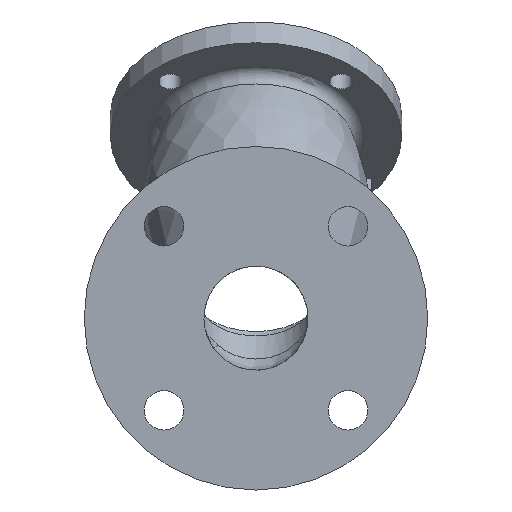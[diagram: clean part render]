
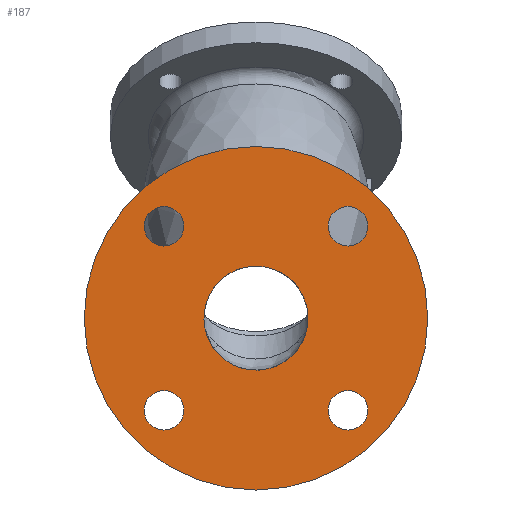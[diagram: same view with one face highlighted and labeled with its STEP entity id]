
A CAD part, front view. The second image highlights one B-rep face of the part: STEP entity #187.
In plain terms, the highlighted planar face has unit normal (0, -1, 0).
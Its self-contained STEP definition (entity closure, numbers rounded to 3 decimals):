
#187 = ADVANCED_FACE( '', ( #530, #531, #532, #533, #534, #535 ), #536, .F. );
#530 = FACE_BOUND( '', #1099, .T. );
#531 = FACE_BOUND( '', #1100, .T. );
#532 = FACE_BOUND( '', #1101, .T. );
#533 = FACE_OUTER_BOUND( '', #1102, .T. );
#534 = FACE_BOUND( '', #1103, .T. );
#535 = FACE_BOUND( '', #1104, .T. );
#536 = PLANE( '', #1105 );
#1099 = EDGE_LOOP( '', ( #9162 ) );
#1100 = EDGE_LOOP( '', ( #9163 ) );
#1101 = EDGE_LOOP( '', ( #9164, #9165, #9166, #9167, #9168, #9169, #9170 ) );
#1102 = EDGE_LOOP( '', ( #9171 ) );
#1103 = EDGE_LOOP( '', ( #9172 ) );
#1104 = EDGE_LOOP( '', ( #9173 ) );
#1105 = AXIS2_PLACEMENT_3D( '', #9174, #9175, #9176 );
#9162 = ORIENTED_EDGE( '', *, *, #10682, .T. );
#9163 = ORIENTED_EDGE( '', *, *, #10683, .T. );
#9164 = ORIENTED_EDGE( '', *, *, #10684, .T. );
#9165 = ORIENTED_EDGE( '', *, *, #10685, .T. );
#9166 = ORIENTED_EDGE( '', *, *, #10686, .T. );
#9167 = ORIENTED_EDGE( '', *, *, #10687, .T. );
#9168 = ORIENTED_EDGE( '', *, *, #10688, .T. );
#9169 = ORIENTED_EDGE( '', *, *, #10689, .T. );
#9170 = ORIENTED_EDGE( '', *, *, #10690, .T. );
#9171 = ORIENTED_EDGE( '', *, *, #10691, .F. );
#9172 = ORIENTED_EDGE( '', *, *, #10692, .T. );
#9173 = ORIENTED_EDGE( '', *, *, #10693, .T. );
#9174 = CARTESIAN_POINT( '', ( 0., 0., 0. ) );
#9175 = DIRECTION( '', ( 0., 1., 0. ) );
#9176 = DIRECTION( '', ( 0., 0., 1. ) );
#10682 = EDGE_CURVE( '', #11212, #11212, #11213, .T. );
#10683 = EDGE_CURVE( '', #11214, #11214, #11215, .T. );
#10684 = EDGE_CURVE( '', #11216, #11217, #11218, .F. );
#10685 = EDGE_CURVE( '', #11217, #11219, #11220, .T. );
#10686 = EDGE_CURVE( '', #11219, #11221, #11222, .T. );
#10687 = EDGE_CURVE( '', #11221, #11223, #11224, .T. );
#10688 = EDGE_CURVE( '', #11223, #11225, #11226, .T. );
#10689 = EDGE_CURVE( '', #11225, #11227, #11228, .F. );
#10690 = EDGE_CURVE( '', #11227, #11216, #11229, .T. );
#10691 = EDGE_CURVE( '', #11230, #11230, #11231, .T. );
#10692 = EDGE_CURVE( '', #11232, #11232, #11233, .T. );
#10693 = EDGE_CURVE( '', #11234, #11234, #11235, .T. );
#11212 = VERTEX_POINT( '', #11993 );
#11213 = CIRCLE( '', #11994, 9.5 );
#11214 = VERTEX_POINT( '', #11995 );
#11215 = CIRCLE( '', #11996, 9.5 );
#11216 = VERTEX_POINT( '', #11997 );
#11217 = VERTEX_POINT( '', #11998 );
#11218 = CIRCLE( '', #11999, 5. );
#11219 = VERTEX_POINT( '', #12000 );
#11220 = B_SPLINE_CURVE_WITH_KNOTS( '', 3, ( #12001, #12002, #12003, #12004, #12005 ), .UNSPECIFIED., .F., .F., ( 4, 1, 4 ), ( 0., 0.001, 0.002 ), .UNSPECIFIED. );
#11221 = VERTEX_POINT( '', #12006 );
#11222 = B_SPLINE_CURVE_WITH_KNOTS( '', 3, ( #12007, #12008, #12009, #12010 ), .UNSPECIFIED., .F., .F., ( 4, 4 ), ( 0.001, 0.001 ), .UNSPECIFIED. );
#11223 = VERTEX_POINT( '', #12011 );
#11224 = CIRCLE( '', #12012, 25. );
#11225 = VERTEX_POINT( '', #12013 );
#11226 = CIRCLE( '', #12014, 15. );
#11227 = VERTEX_POINT( '', #12015 );
#11228 = CIRCLE( '', #12016, 2. );
#11229 = CIRCLE( '', #12017, 25.039 );
#11230 = VERTEX_POINT( '', #12018 );
#11231 = CIRCLE( '', #12019, 82.5 );
#11232 = VERTEX_POINT( '', #12020 );
#11233 = CIRCLE( '', #12021, 9.5 );
#11234 = VERTEX_POINT( '', #12022 );
#11235 = CIRCLE( '', #12023, 9.5 );
#11993 = CARTESIAN_POINT( '', ( 34.694, 0., 44.194 ) );
#11994 = AXIS2_PLACEMENT_3D( '', #17083, #17084, #17085 );
#11995 = CARTESIAN_POINT( '', ( -53.694, 0., -44.194 ) );
#11996 = AXIS2_PLACEMENT_3D( '', #17086, #17087, #17088 );
#11997 = CARTESIAN_POINT( '', ( -20.416, 0., -14.405 ) );
#11998 = CARTESIAN_POINT( '', ( -20.484, 0., -14.312 ) );
#11999 = AXIS2_PLACEMENT_3D( '', #17089, #17090, #17091 );
#12000 = CARTESIAN_POINT( '', ( -21.435, 0., -12.869 ) );
#12001 = CARTESIAN_POINT( '', ( -20.484, 0., -14.312 ) );
#12002 = CARTESIAN_POINT( '', ( -20.656, 0., -14.081 ) );
#12003 = CARTESIAN_POINT( '', ( -20.987, 0., -13.609 ) );
#12004 = CARTESIAN_POINT( '', ( -21.29, 0., -13.119 ) );
#12005 = CARTESIAN_POINT( '', ( -21.435, 0., -12.869 ) );
#12006 = CARTESIAN_POINT( '', ( -21.538, 0., -12.693 ) );
#12007 = CARTESIAN_POINT( '', ( -21.435, 0., -12.869 ) );
#12008 = CARTESIAN_POINT( '', ( -21.469, 0., -12.811 ) );
#12009 = CARTESIAN_POINT( '', ( -21.503, 0., -12.752 ) );
#12010 = CARTESIAN_POINT( '', ( -21.538, 0., -12.693 ) );
#12011 = CARTESIAN_POINT( '', ( 22.395, 0., -11.112 ) );
#12012 = AXIS2_PLACEMENT_3D( '', #17092, #17093, #17094 );
#12013 = CARTESIAN_POINT( '', ( 22.051, 0., -11.763 ) );
#12014 = AXIS2_PLACEMENT_3D( '', #17095, #17096, #17097 );
#12015 = CARTESIAN_POINT( '', ( 22.037, 0., -11.79 ) );
#12016 = AXIS2_PLACEMENT_3D( '', #17098, #17099, #17100 );
#12017 = AXIS2_PLACEMENT_3D( '', #17101, #17102, #17103 );
#12018 = CARTESIAN_POINT( '', ( 82.5, 0., 0. ) );
#12019 = AXIS2_PLACEMENT_3D( '', #17104, #17105, #17106 );
#12020 = CARTESIAN_POINT( '', ( -53.694, 0., 44.194 ) );
#12021 = AXIS2_PLACEMENT_3D( '', #17107, #17108, #17109 );
#12022 = CARTESIAN_POINT( '', ( 34.694, 0., -44.194 ) );
#12023 = AXIS2_PLACEMENT_3D( '', #17110, #17111, #17112 );
#17083 = CARTESIAN_POINT( '', ( 44.194, 0., 44.194 ) );
#17084 = DIRECTION( '', ( 0., 1., 0. ) );
#17085 = DIRECTION( '', ( -1., 0., 0. ) );
#17086 = CARTESIAN_POINT( '', ( -44.194, 0., -44.194 ) );
#17087 = DIRECTION( '', ( 0., 1., 0. ) );
#17088 = DIRECTION( '', ( -1., 0., 0. ) );
#17089 = CARTESIAN_POINT( '', ( -24.493, 0., -17.3 ) );
#17090 = DIRECTION( '', ( 0., 1., 0. ) );
#17091 = DIRECTION( '', ( 0., 0., 1. ) );
#17092 = CARTESIAN_POINT( '', ( 0., 0., 0. ) );
#17093 = DIRECTION( '', ( 0., 1., 0. ) );
#17094 = DIRECTION( '', ( 0., 0., 1. ) );
#17095 = CARTESIAN_POINT( '', ( 8.958, 0., -4.445 ) );
#17096 = DIRECTION( '', ( 0., 1., 0. ) );
#17097 = DIRECTION( '', ( 0., 0., 1. ) );
#17098 = CARTESIAN_POINT( '', ( 23.797, 0., -12.739 ) );
#17099 = DIRECTION( '', ( 0., 1., 0. ) );
#17100 = DIRECTION( '', ( 0., 0., 1. ) );
#17101 = CARTESIAN_POINT( '', ( -0.002, 0., 0.094 ) );
#17102 = DIRECTION( '', ( 0., 1., 0. ) );
#17103 = DIRECTION( '', ( 1., 0., 0. ) );
#17104 = CARTESIAN_POINT( '', ( 0., 0., 0. ) );
#17105 = DIRECTION( '', ( 0., 1., 0. ) );
#17106 = DIRECTION( '', ( 1., 0., 0. ) );
#17107 = CARTESIAN_POINT( '', ( -44.194, 0., 44.194 ) );
#17108 = DIRECTION( '', ( 0., 1., 0. ) );
#17109 = DIRECTION( '', ( -1., 0., 0. ) );
#17110 = CARTESIAN_POINT( '', ( 44.194, 0., -44.194 ) );
#17111 = DIRECTION( '', ( 0., 1., 0. ) );
#17112 = DIRECTION( '', ( -1., 0., 0. ) );
